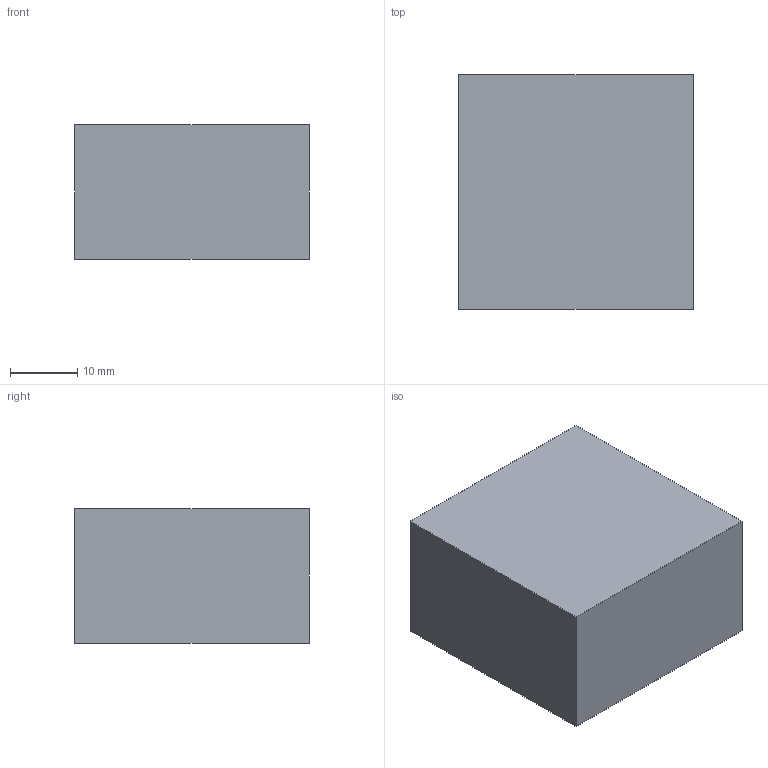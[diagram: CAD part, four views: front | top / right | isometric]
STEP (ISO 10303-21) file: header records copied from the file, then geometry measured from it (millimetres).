
FILE_DESCRIPTION (( 'STEP AP203' ), '1' );
FILE_NAME ('FT15ES04.STEP', '2026-06-26T01:10:09', ( 'USER' ), ( '' ), 'SwSTEP 2.0', 'SolidWorks 2023', '' );
FILE_SCHEMA (( 'CONFIG_CONTROL_DESIGN' ));
Length unit declared in the file: millimetre
Products named in the file (1): FT15ES04
Bounding box: 35 x 35 x 20 mm (x, y, z)
Volume: 21102.9 mm3; surface area: 6398.8 mm2
Topology: 1 solids, 1 shells, 32 faces, 64 edges, 40 vertices
Faces by surface type: cylinder 12, plane 12, cone 8
Entity records: 913 total; most frequent: DIRECTION 162, CARTESIAN_POINT 137, ORIENTED_EDGE 128, AXIS2_PLACEMENT_3D 65, EDGE_CURVE 64, VERTEX_POINT 40, EDGE_LOOP 38, LINE 32
